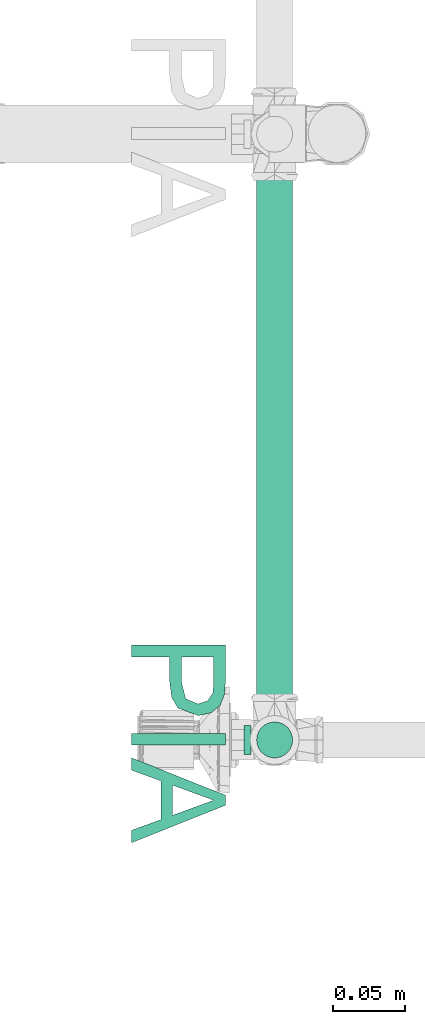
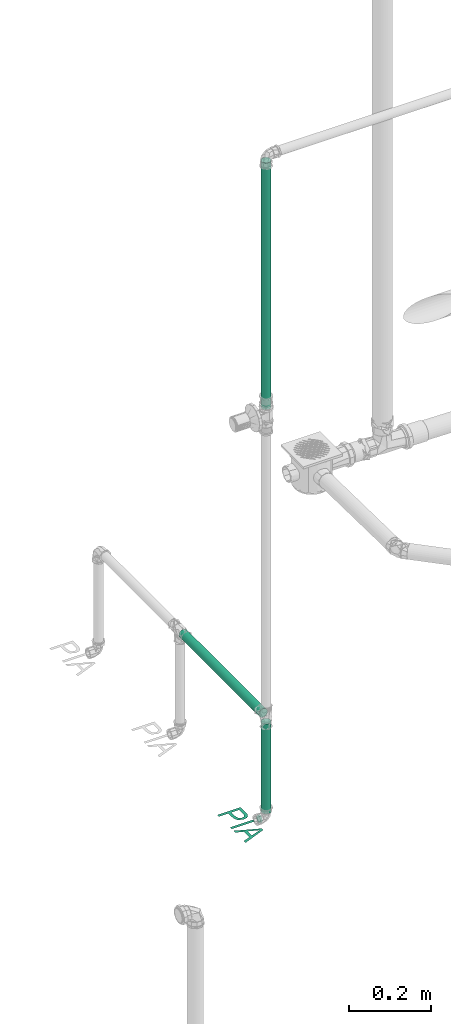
# One storey, part 125 of 589: 3 flow segments, 1 flow terminal.
"""IFC2X3 building model written with IfcOpenShell, lengths in millimetres."""

from ifc_helpers import new_model, entity, si_unit, converted_unit, derived_unit, direction, frame, frame_2d, origin, origin_2d_with_axis, place, context, subcontext, project, spatial, circle, extrude, face_set, surface_model, source, transform, mapped, material, type_object, type_shapes, element, save


model = new_model("IFC2X3")

# Units and contexts
model_context = context("Model", 3, precision=0.01, world=origin(), true_north=direction((6.123031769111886e-17, 1.0)))
body_context = subcontext(model_context, "Body", "Model", "MODEL_VIEW")
ifc_project = project(units=[si_unit("LENGTHUNIT", "METRE", prefix="MILLI"), si_unit("AREAUNIT", "SQUARE_METRE"), si_unit("VOLUMEUNIT", "CUBIC_METRE"), converted_unit("PLANEANGLEUNIT", "DEGREE", entity("IfcRatioMeasure", 0.017453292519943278), si_unit("PLANEANGLEUNIT", "RADIAN"), dimensions=[0, 0, 0, 0, 0, 0, 0]), si_unit("MASSUNIT", "GRAM", prefix="KILO"), derived_unit("MASSDENSITYUNIT", [(si_unit("MASSUNIT", "GRAM", prefix="KILO"), 1), (si_unit("LENGTHUNIT", "METRE"), -3)]), derived_unit("IONCONCENTRATIONUNIT", [(si_unit("MASSUNIT", "GRAM", prefix="KILO"), 1), (si_unit("LENGTHUNIT", "METRE"), -3)]), derived_unit("MOMENTOFINERTIAUNIT", [(si_unit("LENGTHUNIT", "METRE"), 4)]), si_unit("TIMEUNIT", "SECOND"), si_unit("FREQUENCYUNIT", "HERTZ"), si_unit("THERMODYNAMICTEMPERATUREUNIT", "DEGREE_CELSIUS"), derived_unit("THERMALTRANSMITTANCEUNIT", [(si_unit("MASSUNIT", "GRAM", prefix="KILO"), 1), (si_unit("THERMODYNAMICTEMPERATUREUNIT", "KELVIN"), -1), (si_unit("TIMEUNIT", "SECOND"), -3)]), derived_unit("THERMALCONDUCTANCEUNIT", [(si_unit("MASSUNIT", "GRAM", prefix="KILO"), 1), (si_unit("THERMODYNAMICTEMPERATUREUNIT", "KELVIN"), -1), (si_unit("TIMEUNIT", "SECOND"), -3), (si_unit("LENGTHUNIT", "METRE"), 1)]), derived_unit("VOLUMETRICFLOWRATEUNIT", [(si_unit("LENGTHUNIT", "METRE"), 3), (si_unit("TIMEUNIT", "SECOND"), -1)]), derived_unit("MASSFLOWRATEUNIT", [(si_unit("MASSUNIT", "GRAM", prefix="KILO"), 1), (si_unit("TIMEUNIT", "SECOND"), -1)]), derived_unit("ROTATIONALFREQUENCYUNIT", [(si_unit("TIMEUNIT", "SECOND"), -1)]), si_unit("ELECTRICCURRENTUNIT", "AMPERE"), si_unit("ELECTRICVOLTAGEUNIT", "VOLT"), si_unit("POWERUNIT", "WATT"), si_unit("FORCEUNIT", "NEWTON", prefix="KILO"), si_unit("ILLUMINANCEUNIT", "LUX"), si_unit("LUMINOUSFLUXUNIT", "LUMEN"), si_unit("LUMINOUSINTENSITYUNIT", "CANDELA"), derived_unit("USERDEFINED", [(si_unit("MASSUNIT", "GRAM", prefix="KILO"), -1), (si_unit("LENGTHUNIT", "METRE"), -2), (si_unit("TIMEUNIT", "SECOND"), 3), (si_unit("LUMINOUSFLUXUNIT", "LUMEN"), 1)]), derived_unit("USERDEFINED", [(si_unit("MASSUNIT", "GRAM", prefix="KILO"), 1), (si_unit("TIMEUNIT", "SECOND"), -3), (si_unit("LENGTHUNIT", "METRE"), 3), (si_unit("ELECTRICCURRENTUNIT", "AMPERE"), -2)]), derived_unit("SOUNDPOWERUNIT", [(si_unit("MASSUNIT", "GRAM", prefix="KILO"), 1), (si_unit("TIMEUNIT", "SECOND"), -3), (si_unit("LENGTHUNIT", "METRE"), 2)]), derived_unit("SOUNDPRESSUREUNIT", [(si_unit("MASSUNIT", "GRAM", prefix="KILO"), 1), (si_unit("LENGTHUNIT", "METRE"), -1), (si_unit("TIMEUNIT", "SECOND"), -2)]), derived_unit("LINEARVELOCITYUNIT", [(si_unit("LENGTHUNIT", "METRE"), 1), (si_unit("TIMEUNIT", "SECOND"), -1)]), si_unit("PRESSUREUNIT", "PASCAL"), derived_unit("USERDEFINED", [(si_unit("MASSUNIT", "GRAM", prefix="KILO"), 1), (si_unit("LENGTHUNIT", "METRE"), -2), (si_unit("TIMEUNIT", "SECOND"), -2)]), derived_unit("LINEARFORCEUNIT", [(si_unit("MASSUNIT", "GRAM", prefix="KILO"), 1), (si_unit("TIMEUNIT", "SECOND"), -2)]), derived_unit("PLANARFORCEUNIT", [(si_unit("MASSUNIT", "GRAM", prefix="KILO"), 1), (si_unit("LENGTHUNIT", "METRE"), -1), (si_unit("TIMEUNIT", "SECOND"), -2)]), derived_unit("SPECIFICHEATCAPACITYUNIT", [(si_unit("THERMODYNAMICTEMPERATUREUNIT", "KELVIN"), -1), (si_unit("LENGTHUNIT", "METRE"), 2), (si_unit("TIMEUNIT", "SECOND"), -2)]), derived_unit("HEATINGVALUEUNIT", [(si_unit("LENGTHUNIT", "METRE"), 2), (si_unit("TIMEUNIT", "SECOND"), -2)]), derived_unit("VAPORPERMEABILITYUNIT", [(si_unit("LENGTHUNIT", "METRE"), -1), (si_unit("TIMEUNIT", "SECOND"), 1)]), derived_unit("DYNAMICVISCOSITYUNIT", [(si_unit("MASSUNIT", "GRAM", prefix="KILO"), 1), (si_unit("TIMEUNIT", "SECOND"), -1), (si_unit("LENGTHUNIT", "METRE"), -1)]), derived_unit("THERMALEXPANSIONCOEFFICIENTUNIT", [(si_unit("THERMODYNAMICTEMPERATUREUNIT", "KELVIN"), -1)]), derived_unit("MODULUSOFELASTICITYUNIT", [(si_unit("MASSUNIT", "GRAM", prefix="KILO"), 1), (si_unit("LENGTHUNIT", "METRE"), -1), (si_unit("TIMEUNIT", "SECOND"), -2)]), derived_unit("ISOTHERMALMOISTURECAPACITYUNIT", [(si_unit("LENGTHUNIT", "METRE"), 3), (si_unit("MASSUNIT", "GRAM", prefix="KILO"), -1)]), derived_unit("MOISTUREDIFFUSIVITYUNIT", [(si_unit("TIMEUNIT", "SECOND"), -1), (si_unit("LENGTHUNIT", "METRE"), 2)])], contexts=[model_context])

# Site, building, storey
site_placement = place(None, origin())
site = spatial("IfcSite", under=ifc_project, at=site_placement, Name="Default", CompositionType="ELEMENT")
building_placement = place(site_placement, origin())
building = spatial("IfcBuilding", under=site, at=building_placement, CompositionType="ELEMENT")
storey_placement = place(building_placement, frame((0.0, 0.0, 100.0)))
storey = spatial("IfcBuildingStorey", under=building, at=storey_placement, Name="TÉRREO", CompositionType="ELEMENT", Elevation=100.0)

# Flow segments
pipe_segment_type = type_object("IfcPipeSegmentType", Name="Tipos de tubos:PVC Marrom Soldável", PredefinedType="NOTDEFINED")
flow_segment_1_placement = place(storey_placement, origin())
element("IfcFlowSegment", 1, at=flow_segment_1_placement, inside=storey, type_object=pipe_segment_type, Name="Tipos de tubos:PVC Marrom Soldável", ObjectType="Tipos de tubos:PVC Marrom Soldável", context=body_context, shape_type="SweptSolid", body=[
    extrude(circle(Radius=12.5, at=origin_2d_with_axis()), frame((3191.179797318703, 277.31812904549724, 2220.0), z_axis=(0.0, 0.0, 1.0), x_axis=(-1.0, 0.0, 0.0)), (0.0, 0.0, 1.0), 734.6000000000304),
])
flow_segment_2_placement = place(storey_placement, origin())
element("IfcFlowSegment", 2, at=flow_segment_2_placement, inside=storey, type_object=pipe_segment_type, Name="Tipos de tubos:PVC Marrom Soldável", ObjectType="Tipos de tubos:PVC Marrom Soldável", context=body_context, shape_type="SweptSolid", body=[
    extrude(circle(Radius=12.5, at=origin_2d_with_axis()), frame((3191.179797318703, 291.81812904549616, 1300.0), z_axis=(0.0, 1.0, 0.0), x_axis=(1.0, 0.0, 0.0)), (0.0, 0.0, 1.0), 389.600000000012),
])
flow_segment_3_placement = place(storey_placement, origin())
element("IfcFlowSegment", 3, at=flow_segment_3_placement, inside=storey, type_object=pipe_segment_type, Name="Tipos de tubos:PVC Marrom Soldável", ObjectType="Tipos de tubos:PVC Marrom Soldável", context=body_context, shape_type="SweptSolid", body=[
    extrude(circle(Radius=12.5, at=frame_2d((0.0, -3.383959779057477e-14), x_axis=(1.0, 0.0))), frame((3191.179797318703, 277.3181290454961, 1016.300000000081), z_axis=(0.0, 0.0, 1.0), x_axis=(-1.0, 0.0, 0.0)), (0.0, 0.0, 1.0), 267.79999999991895),
])

# Flow terminal
ifc_material = material(Name="<Unnamed>")
distribution_element_type = type_object("IfcDistributionElementType", Name="Hidráulica_Ponto de Utilização_Uso Provável_Rodrigo MEP:Pia com torneira ou misturador(Peso 0,7)", material=ifc_material)
shared_shape = source(origin(), body_context, "Body", "SurfaceModel", [
    surface_model("IfcFaceBasedSurfaceModel", [(0.0, 0.0, 11.595272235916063), (8.162075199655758, 0.0, 11.595272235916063), (8.162075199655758, 26.52674439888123, 11.595272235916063), (24.757232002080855, 26.52674439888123, 11.595272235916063), (36.352719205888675, 27.96945495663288, 11.595272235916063), (43.7197094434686, 32.29758662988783, 11.595272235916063), (48.97245119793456, 46.405861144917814, 11.595272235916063), (47.02758171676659, 55.30921856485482, 11.595272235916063), (41.88643083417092, 61.62207360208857, 11.595272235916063), (33.95550815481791, 64.67488102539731, 11.595272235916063), (24.199277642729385, 65.2966015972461, 11.595272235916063), (0.0, 65.2966015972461, 11.595272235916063), (8.162075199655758, 34.68881959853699, 11.595272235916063), (8.162075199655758, 57.13452639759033, 11.595272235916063), (25.044179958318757, 57.13452639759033, 11.595272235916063), (33.20625515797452, 56.57657203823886, 11.595272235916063), (38.71406176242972, 52.878131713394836, 11.595272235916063), (40.81037599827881, 46.11891318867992, 11.595272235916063), (37.25540965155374, 37.685831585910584, 11.595272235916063), (25.235478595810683, 34.68881959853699, 11.595272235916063), (61.21556399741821, 0.0, 11.595272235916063), (69.37763919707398, 0.0, 11.595272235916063), (69.37763919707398, 65.2966015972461, 11.595272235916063), (61.21556399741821, 65.2966015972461, 11.595272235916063), (78.0976687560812, 0.0, 11.595272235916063), (86.72204899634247, 0.0, 11.595272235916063), (94.18269585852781, 20.405187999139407, 11.595272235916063), (121.07609597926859, 20.405187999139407, 11.595272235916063), (128.55268439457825, 0.0, 11.595272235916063), (137.17706463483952, 0.0, 11.595272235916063), (111.11262527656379, 65.2966015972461, 11.595272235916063), (104.16210811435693, 65.2966015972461, 11.595272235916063), (97.17970784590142, 28.567263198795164, 11.595272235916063), (103.5722706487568, 46.02326386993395, 11.595272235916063), (107.63736669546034, 57.13452639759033, 11.595272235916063), (112.21259244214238, 44.62040719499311, 11.595272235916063), (118.0950255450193, 28.567263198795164, 11.595272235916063), (55.806731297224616, 78.06704158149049, 11.595272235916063), (56.14747303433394, 78.06704158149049, 14.18346268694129), (57.14647725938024, 78.06704158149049, 16.595272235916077), (58.735663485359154, 78.06704158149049, 18.666340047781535), (60.80673129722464, 78.06704158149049, 20.255526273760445), (63.218540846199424, 78.06704158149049, 21.254530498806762), (65.80673129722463, 78.06704158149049, 21.59527223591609), (68.39492174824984, 78.06704158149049, 21.254530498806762), (70.80673129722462, 78.06704158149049, 20.255526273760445), (72.87779910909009, 78.06704158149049, 18.666340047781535), (74.46698533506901, 78.06704158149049, 16.595272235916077), (75.4659895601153, 78.06704158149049, 14.18346268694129), (75.80673129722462, 78.06704158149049, 11.595272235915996), (75.46598956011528, 78.06704158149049, 9.007081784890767), (74.46698533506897, 78.06704158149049, 6.595272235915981), (72.87779910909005, 78.06704158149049, 4.524204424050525), (70.80673129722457, 78.06704158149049, 2.9350181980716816), (68.39492174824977, 78.06704158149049, 1.936013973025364), (65.80673129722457, 78.06704158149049, 1.5952722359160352), (63.218540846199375, 78.06704158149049, 1.936013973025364), (60.80673129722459, 78.06704158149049, 2.9350181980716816), (58.73566348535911, 78.06704158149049, 4.524204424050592), (57.14647725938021, 78.06704158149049, 6.595272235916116), (56.14747303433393, 78.06704158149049, 9.007081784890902), (55.806731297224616, 83.06704158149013, 11.595272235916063), (56.14747303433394, 83.06704158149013, 14.18346268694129), (57.14647725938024, 83.06704158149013, 16.595272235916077), (58.735663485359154, 83.06704158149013, 18.666340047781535), (60.80673129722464, 83.06704158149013, 20.255526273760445), (63.218540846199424, 83.06704158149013, 21.254530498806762), (65.80673129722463, 83.06704158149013, 21.59527223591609), (68.39492174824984, 83.06704158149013, 21.254530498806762), (70.80673129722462, 83.06704158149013, 20.255526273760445), (72.87779910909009, 83.06704158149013, 18.666340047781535), (74.46698533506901, 83.06704158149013, 16.595272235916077), (75.4659895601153, 83.06704158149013, 14.18346268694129), (75.80673129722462, 83.06704158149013, 11.595272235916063), (75.46598956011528, 83.06704158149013, 9.007081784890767), (74.46698533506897, 83.06704158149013, 6.595272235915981), (72.87779910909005, 83.06704158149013, 4.524204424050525), (70.80673129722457, 83.06704158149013, 2.9350181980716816), (68.39492174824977, 83.06704158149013, 1.936013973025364), (65.80673129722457, 83.06704158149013, 1.5952722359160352), (63.218540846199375, 83.06704158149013, 1.936013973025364), (60.80673129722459, 83.06704158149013, 2.9350181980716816), (58.73566348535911, 83.06704158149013, 4.524204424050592), (57.14647725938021, 83.06704158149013, 6.595272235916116), (56.14747303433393, 83.06704158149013, 9.007081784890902)], [face_set([[[0, 1, 2, 3, 4, 5, 6, 7, 8, 9, 10, 11], [12, 13, 14, 15, 16, 17, 18, 19]], [[20, 21, 22, 23]], [[24, 25, 26, 27, 28, 29, 30, 31], [32, 33, 34, 35, 36]]]), face_set([[[37, 38, 39, 40, 41, 42, 43, 44, 45, 46, 47, 48, 49, 50, 51, 52, 53, 54, 55, 56, 57, 58, 59, 60]], [[61, 62, 63, 64, 65, 66, 67, 68, 69, 70, 71, 72, 73, 74, 75, 76, 77, 78, 79, 80, 81, 82, 83, 84]], [[61, 84, 60, 37]], [[84, 83, 59, 60]], [[82, 81, 57, 58]], [[83, 82, 58, 59]], [[81, 80, 56, 57]], [[55, 56, 80, 79]], [[79, 78, 54, 55]], [[78, 77, 53, 54]], [[76, 75, 51, 52]], [[77, 76, 52, 53]], [[75, 74, 50, 51]], [[49, 50, 74, 73]], [[73, 72, 48, 49]], [[72, 71, 47, 48]], [[70, 69, 45, 46]], [[71, 70, 46, 47]], [[69, 68, 44, 45]], [[43, 44, 68, 67]], [[67, 66, 42, 43]], [[66, 65, 41, 42]], [[64, 63, 39, 40]], [[65, 64, 40, 41]], [[63, 62, 38, 39]], [[37, 38, 62, 61]]])]),
])
type_shapes(distribution_element_type, [shared_shape])
flow_terminal_placement = place(storey_placement, frame((3091.8127557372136, 343.1248603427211, 988.4047277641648), z_axis=(0.0, 0.0, 1.0), x_axis=(0.0, -1.0, 0.0)))
element("IfcFlowTerminal", 4, at=flow_terminal_placement, inside=storey, type_object=distribution_element_type, material=ifc_material, Name="Hidráulica_Ponto de Utilização_Uso Provável_Rodrigo MEP:Pia com torneira ou misturador(Peso 0,7)", ObjectType="Hidráulica_Ponto de Utilização_Uso Provável_Rodrigo MEP:Pia com torneira ou misturador(Peso 0,7)", context=body_context, shape_type="MappedRepresentation", body=[
    mapped(shared_shape, transform((0.0, 0.0, 0.0), scale=1.0)),
])

save(model, "model.ifc")
